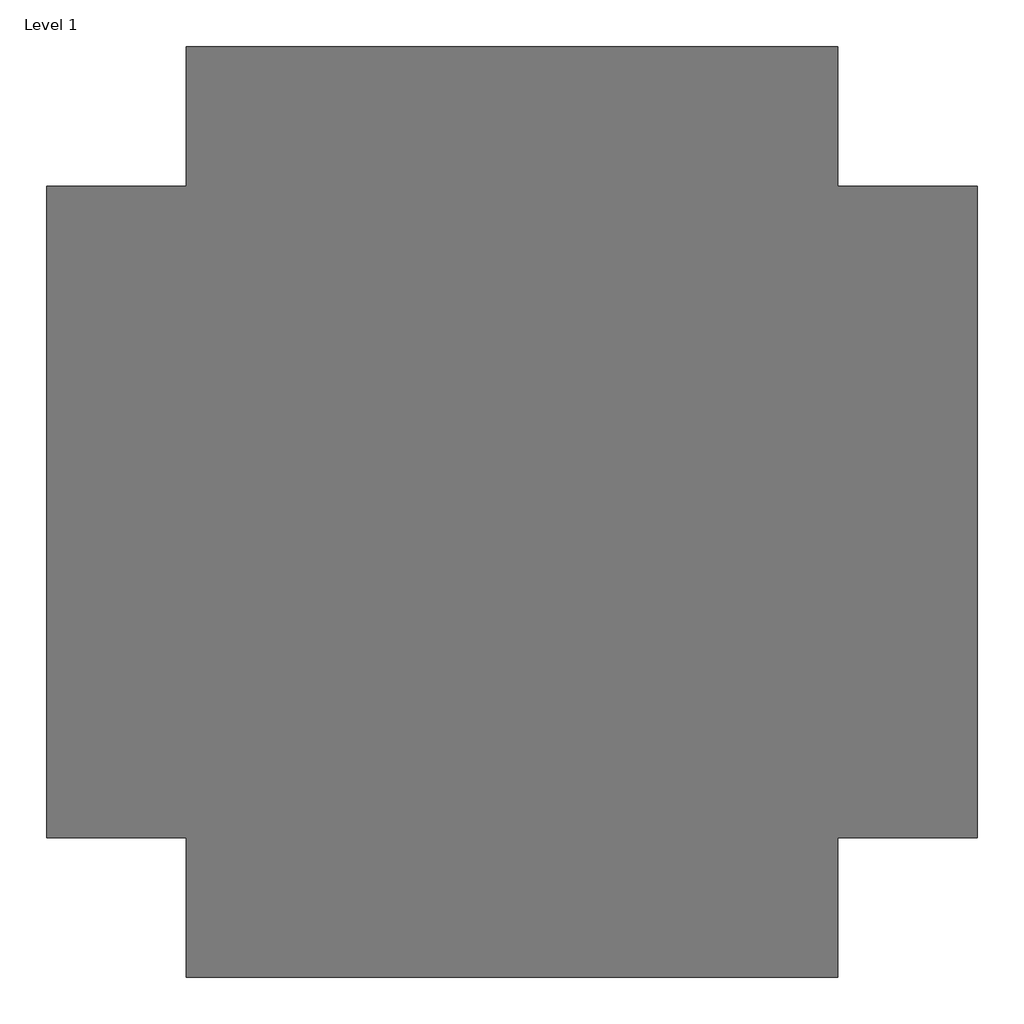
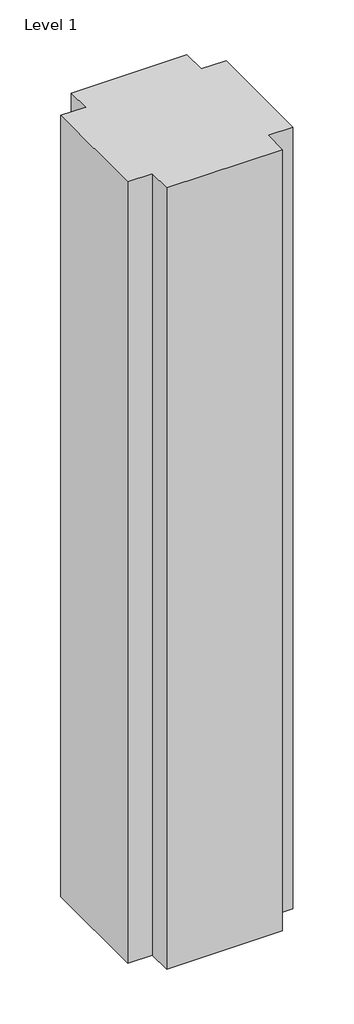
# One storey: 1 proxy.
"""IFC4 building model written with IfcOpenShell, lengths in millimetres."""

import ifcopenshell
import ifcopenshell.guid

model = None  # the IFC model being written
_history = None  # IfcOwnerHistory: only IFC2X3 demands one
_inside = {}  # id of a spatial element -> (the spatial element, [elements in it])
_under = {}  # id of a project, library or spatial element -> (it, [spatial elements below it])
_declared = {}  # id of a project -> (the project, [libraries it declares])
_typed = {}  # id of a type object -> (the type object, [elements of that type])
_made_of = {}  # id of a material, layer set ... -> (it, [elements and type objects made of it])


def new_model(schema):
    """Start an empty IFC model of exactly this schema.

    Asked for "IFC4X3", IfcOpenShell would pick the latest addendum, in which some entities
    have other attributes; the version numbers below select the first issue.
    IFC2X3 requires an IfcOwnerHistory on every rooted entity: one is made here for all.
    """
    global model, _history
    if schema == "IFC4X3":
        model = ifcopenshell.file(schema_version=(4, 3, 0, 0))
    else:
        model = ifcopenshell.file(schema=schema)
    _inside.clear()
    _under.clear()
    _declared.clear()
    _typed.clear()
    _made_of.clear()
    _history = None
    if model.schema == "IFC2X3":
        org = make("IfcOrganization", Name="unknown")
        user = make(
            "IfcPersonAndOrganization",
            ThePerson=make("IfcPerson", FamilyName="unknown"),
            TheOrganization=org,
        )
        app = make(
            "IfcApplication",
            ApplicationDeveloper=org,
            Version="unknown",
            ApplicationFullName="unknown",
            ApplicationIdentifier="unknown",
        )
        _history = make(
            "IfcOwnerHistory",
            OwningUser=user,
            OwningApplication=app,
            ChangeAction="ADDED",
            CreationDate=0,
        )
    return model


def make(cls, **values):
    """One entity of the class cls with the attributes given. An attribute that is None is left unset."""
    return model.create_entity(
        cls, **{name: value for name, value in values.items() if value is not None}
    )


def rooted(cls, **values):
    """An entity with a GlobalId (a new one), such as an element, a storey or a relation."""
    return make(cls, GlobalId=ifcopenshell.guid.new(), OwnerHistory=_history, **values)


def si_unit(unit_type, name, prefix=None):
    """IfcSIUnit, for example si_unit("LENGTHUNIT", "METRE", prefix="MILLI")."""
    return make("IfcSIUnit", UnitType=unit_type, Prefix=prefix, Name=name)


def assignment(units):
    """IfcUnitAssignment: the units of a project."""
    return None if units is None else make("IfcUnitAssignment", Units=units)


def point(xyz):
    """IfcCartesianPoint."""
    return None if xyz is None else make("IfcCartesianPoint", Coordinates=xyz)


def direction(xyz):
    """IfcDirection."""
    return None if xyz is None else make("IfcDirection", DirectionRatios=xyz)


def frame(location, z_axis=None, x_axis=None):
    """IfcAxis2Placement3D, a coordinate frame: its origin and axes. An axis left out is left unset."""
    return make(
        "IfcAxis2Placement3D",
        Location=point(location),
        Axis=direction(z_axis),
        RefDirection=direction(x_axis),
    )


def origin():
    """The frame at (0, 0, 0) with its axes left unset."""
    return frame((0.0, 0.0, 0.0))


def origin_with_axes():
    """The frame at (0, 0, 0) with the z axis (0, 0, 1) and the x axis (1, 0, 0) written out."""
    return frame((0.0, 0.0, 0.0), z_axis=(0.0, 0.0, 1.0), x_axis=(1.0, 0.0, 0.0))


def place(relative_to, where):
    """IfcLocalPlacement: puts the frame where relative to a parent placement (None: the world)."""
    return make(
        "IfcLocalPlacement", PlacementRelTo=relative_to, RelativePlacement=where
    )


def context(
    kind, dimensions, precision=None, world=None, true_north=None, identifier=None
):
    """IfcGeometricRepresentationContext, for example the 3D "Model" context."""
    return make(
        "IfcGeometricRepresentationContext",
        ContextIdentifier=identifier,
        ContextType=kind,
        CoordinateSpaceDimension=dimensions,
        Precision=precision,
        WorldCoordinateSystem=world,
        TrueNorth=true_north,
    )


def project(units=None, contexts=None):
    """IfcProject with its units and contexts."""
    return rooted(
        "IfcProject",
        Name="project",
        RepresentationContexts=contexts,
        UnitsInContext=assignment(units),
    )


def spatial(cls, under=None, at=None, **own):
    """A site, building, storey or space (cls), placed at a placement, below another one or the project."""
    s = rooted(cls, ObjectPlacement=at, **own)
    if under is not None:
        _under.setdefault(under.id(), (under, []))[1].append(s)
    return s


def polyline(points):
    """IfcPolyline through the points."""
    return make("IfcPolyline", Points=[point(p) for p in points])


def outline(outer, holes=None, kind="AREA"):
    """IfcArbitraryClosedProfileDef: a profile drawn as a closed curve; with holes, ...WithVoids."""
    if holes is None:
        return make("IfcArbitraryClosedProfileDef", ProfileType=kind, OuterCurve=outer)
    return make(
        "IfcArbitraryProfileDefWithVoids",
        ProfileType=kind,
        OuterCurve=outer,
        InnerCurves=holes,
    )


def extrude(swept, where, along, depth):
    """IfcExtrudedAreaSolid: the profile swept, set in the frame where, extruded along a direction by depth."""
    return make(
        "IfcExtrudedAreaSolid",
        SweptArea=swept,
        Position=where,
        ExtrudedDirection=direction(along),
        Depth=depth,
    )


def shape(context_of_items, identifier, shape_type, items):
    """IfcShapeRepresentation: the items that make up one representation, for example the "Body"."""
    return make(
        "IfcShapeRepresentation",
        ContextOfItems=context_of_items,
        RepresentationIdentifier=identifier,
        RepresentationType=shape_type,
        Items=items,
    )


def made_of(thing, what):
    """Note that an element or type object is made of a material, layer set ...; save() writes the relation."""
    if what is not None:
        _made_of.setdefault(what.id(), (what, []))[1].append(thing)
    return thing


def element(
    cls,
    number,
    at=None,
    inside=None,
    cuts=None,
    type_object=None,
    material=None,
    context=None,
    identifier="Body",
    shape_type=None,
    held_by="IfcProductDefinitionShape",
    body=None,
    shapes=None,
    **own,
):
    """One element of the class cls, such as IfcWall. Its Tag is "e" and its number.

    at: its placement. inside: the storey or other place that contains it. cuts: it is an
    opening in that element (IfcRelVoidsElement). A single representation is given by context,
    identifier, shape_type and body (its items); several are given by shapes. held_by: the class
    of the entity that holds the representations. save() writes the other relations.
    """
    e = rooted(cls, Tag="e%d" % number, ObjectPlacement=at, **own)
    if body is not None:
        shapes = [shape(context, identifier, shape_type, body)]
    if shapes is not None:
        e.Representation = make(held_by, Representations=shapes)
    if inside is not None:
        _inside.setdefault(inside.id(), (inside, []))[1].append(e)
    if cuts is not None:
        rooted(
            "IfcRelVoidsElement", RelatingBuildingElement=cuts, RelatedOpeningElement=e
        )
    if type_object is not None:
        _typed.setdefault(type_object.id(), (type_object, []))[1].append(e)
    return made_of(e, material)


def aggregate(whole, parts):
    """IfcRelAggregates: a whole, such as a stair, and the parts it consists of."""
    return rooted("IfcRelAggregates", RelatingObject=whole, RelatedObjects=parts)


def save(model, path):
    """Write the relations noted so far, then the file.

    IfcRelAggregates (storeys below a building ...), IfcRelContainedInSpatialStructure (elements
    in a storey), IfcRelDefinesByType, IfcRelAssociatesMaterial and IfcRelDeclares: one each for
    every whole, place, type object, material and project.
    """
    for whole, parts in _under.values():
        aggregate(whole, parts)
    for where, things in _inside.values():
        rooted(
            "IfcRelContainedInSpatialStructure",
            RelatedElements=things,
            RelatingStructure=where,
        )
    for kind, things in _typed.values():
        rooted("IfcRelDefinesByType", RelatedObjects=things, RelatingType=kind)
    for what, things in _made_of.values():
        rooted("IfcRelAssociatesMaterial", RelatedObjects=things, RelatingMaterial=what)
    for by, libraries in _declared.values():
        rooted("IfcRelDeclares", RelatingContext=by, RelatedDefinitions=libraries)
    model.write(path)


model = new_model("IFC4")

# Units and contexts
model_context = context("Model", 3, world=origin())
ifc_project = project(units=[si_unit("LENGTHUNIT", "METRE", prefix="MILLI")], contexts=[model_context])

# Site, building, storey
site = spatial("IfcSite", under=ifc_project)
building = spatial("IfcBuilding", under=site)
storey = spatial("IfcBuildingStorey", under=building, Name="Level 1", Elevation=0.0)

# Proxy
placement = place(None, origin())
element("IfcBuildingElementProxy", 1, Name="Mass 1 : Mass 1", ObjectType="Mass 1 : Mass 1", at=placement, inside=storey, context=model_context, shape_type="SweptSolid", body=[
    extrude(outline(polyline([(-7150.3629456, 4479.6634547), (-7150.3629456, 9051.6634547), (14185.6370544, 9051.6634547), (14185.6370544, 4479.6634547), (18757.6370544, 4479.6634547), (18757.6370544, -16856.3365453), (14185.6370544, -16856.3365453), (14185.6370544, -21428.3365453), (-7150.3629456, -21428.3365453), (-7150.3629456, -16856.3365453), (-11722.3629456, -16856.3365453), (-11722.3629456, 4479.6634547), (-7150.3629456, 4479.6634547)])), origin_with_axes(), (0.0, 0.0, 1.0), 152400.0),
])

save(model, "model.ifc")
